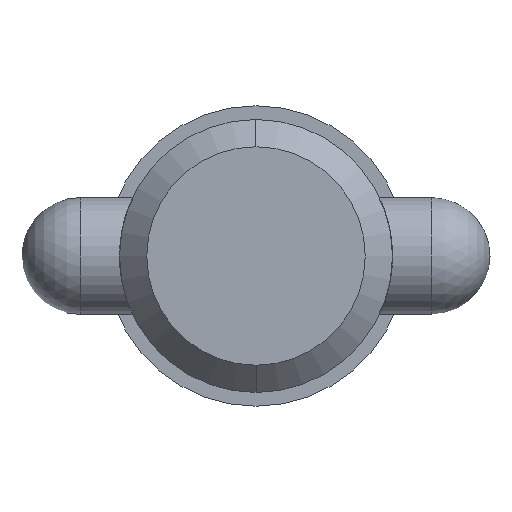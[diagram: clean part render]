
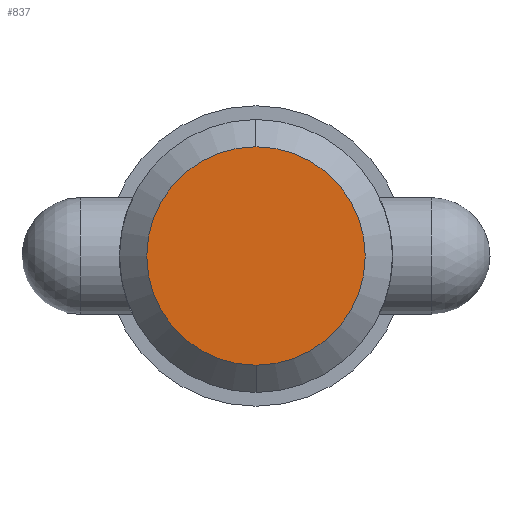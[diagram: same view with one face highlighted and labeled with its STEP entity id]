
A CAD part, left-side view. The second image highlights one B-rep face of the part: STEP entity #837.
In plain terms, the highlighted planar face has unit normal (-1, 0, 0).
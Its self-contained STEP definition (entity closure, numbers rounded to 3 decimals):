
#1 = CIRCLE ( 'NONE', #677, 8.892 ) ;
#28 = EDGE_CURVE ( 'NONE', #765, #1048, #784, .T. ) ;
#124 = DIRECTION ( 'NONE',  ( 0., 0., 1. ) ) ;
#213 = CARTESIAN_POINT ( 'NONE',  ( 0., 0., 0. ) ) ;
#271 = CARTESIAN_POINT ( 'NONE',  ( 0., 0., 0. ) ) ;
#309 = CARTESIAN_POINT ( 'NONE',  ( 0., 0., 0. ) ) ;
#449 = AXIS2_PLACEMENT_3D ( 'NONE', #271, #1013, #450 ) ;
#450 = DIRECTION ( 'NONE',  ( 0., 0., -1. ) ) ;
#455 = CARTESIAN_POINT ( 'NONE',  ( 0., 0., -8.892 ) ) ;
#459 = EDGE_CURVE ( 'NONE', #1048, #765, #1, .T. ) ;
#474 = DIRECTION ( 'NONE',  ( 1., 0., 0. ) ) ;
#551 = DIRECTION ( 'NONE',  ( 0., 0., -1. ) ) ;
#640 = FACE_OUTER_BOUND ( 'NONE', #741, .T. ) ;
#664 = AXIS2_PLACEMENT_3D ( 'NONE', #213, #878, #124 ) ;
#677 = AXIS2_PLACEMENT_3D ( 'NONE', #309, #474, #551 ) ;
#705 = PLANE ( 'NONE',  #664 ) ;
#719 = ORIENTED_EDGE ( 'NONE', *, *, #28, .F. ) ;
#741 = EDGE_LOOP ( 'NONE', ( #719, #918 ) ) ;
#765 = VERTEX_POINT ( 'NONE', #455 ) ;
#784 = CIRCLE ( 'NONE', #449, 8.892 ) ;
#837 = ADVANCED_FACE ( 'NONE', ( #640 ), #705, .T. ) ;
#878 = DIRECTION ( 'NONE',  ( -1., 0., 0. ) ) ;
#913 = CARTESIAN_POINT ( 'NONE',  ( 0., 0., 8.892 ) ) ;
#918 = ORIENTED_EDGE ( 'NONE', *, *, #459, .F. ) ;
#1013 = DIRECTION ( 'NONE',  ( 1., 0., 0. ) ) ;
#1048 = VERTEX_POINT ( 'NONE', #913 ) ;
